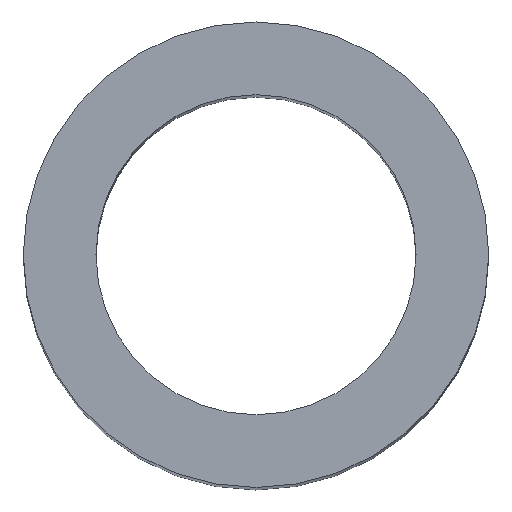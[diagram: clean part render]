
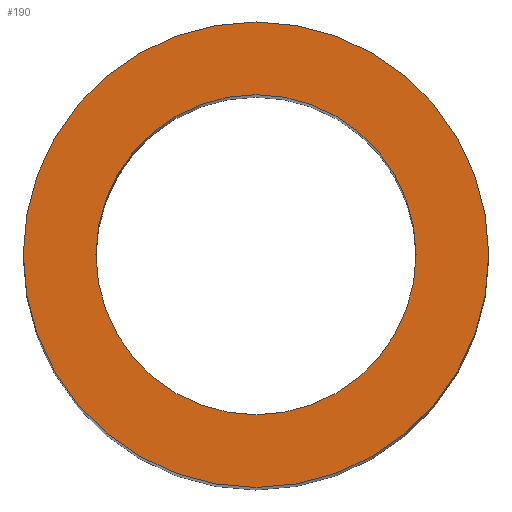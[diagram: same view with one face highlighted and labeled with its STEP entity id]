
A CAD part, top view. The second image highlights one B-rep face of the part: STEP entity #190.
In plain terms, the highlighted planar face has unit normal (0, 0, 1).
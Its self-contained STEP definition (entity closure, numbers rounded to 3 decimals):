
#24 = VERTEX_POINT('',#25);
#25 = CARTESIAN_POINT('',(25.1,-91.8,191.));
#32 = CYLINDRICAL_SURFACE('',#33,1.6);
#33 = AXIS2_PLACEMENT_3D('',#34,#35,#36);
#34 = CARTESIAN_POINT('',(23.5,-91.8,181.));
#35 = DIRECTION('',(-0.,-0.,-1.));
#36 = DIRECTION('',(1.,0.,0.));
#51 = EDGE_CURVE('',#24,#24,#52,.T.);
#52 = SURFACE_CURVE('',#53,(#58,#65),.PCURVE_S1.);
#53 = CIRCLE('',#54,1.6);
#54 = AXIS2_PLACEMENT_3D('',#55,#56,#57);
#55 = CARTESIAN_POINT('',(23.5,-91.8,191.));
#56 = DIRECTION('',(0.,0.,1.));
#57 = DIRECTION('',(1.,0.,0.));
#58 = PCURVE('',#32,#59);
#59 = DEFINITIONAL_REPRESENTATION('',(#60),#64);
#60 = LINE('',#61,#62);
#61 = CARTESIAN_POINT('',(-0.,-10.));
#62 = VECTOR('',#63,1.);
#63 = DIRECTION('',(-1.,0.));
#64 = ( GEOMETRIC_REPRESENTATION_CONTEXT(2) 
PARAMETRIC_REPRESENTATION_CONTEXT() REPRESENTATION_CONTEXT('2D SPACE',''
  ) );
#65 = PCURVE('',#66,#71);
#66 = PLANE('',#67);
#67 = AXIS2_PLACEMENT_3D('',#68,#69,#70);
#68 = CARTESIAN_POINT('',(23.5,-91.8,191.));
#69 = DIRECTION('',(0.,0.,1.));
#70 = DIRECTION('',(1.,0.,-0.));
#71 = DEFINITIONAL_REPRESENTATION('',(#72),#76);
#72 = CIRCLE('',#73,1.6);
#73 = AXIS2_PLACEMENT_2D('',#74,#75);
#74 = CARTESIAN_POINT('',(0.,0.));
#75 = DIRECTION('',(1.,0.));
#76 = ( GEOMETRIC_REPRESENTATION_CONTEXT(2) 
PARAMETRIC_REPRESENTATION_CONTEXT() REPRESENTATION_CONTEXT('2D SPACE',''
  ) );
#112 = VERTEX_POINT('',#113);
#113 = CARTESIAN_POINT('',(24.6,-91.8,191.));
#120 = CYLINDRICAL_SURFACE('',#121,1.1);
#121 = AXIS2_PLACEMENT_3D('',#122,#123,#124);
#122 = CARTESIAN_POINT('',(23.5,-91.8,181.));
#123 = DIRECTION('',(-0.,-0.,-1.));
#124 = DIRECTION('',(1.,0.,0.));
#139 = EDGE_CURVE('',#112,#112,#140,.T.);
#140 = SURFACE_CURVE('',#141,(#146,#153),.PCURVE_S1.);
#141 = CIRCLE('',#142,1.1);
#142 = AXIS2_PLACEMENT_3D('',#143,#144,#145);
#143 = CARTESIAN_POINT('',(23.5,-91.8,191.));
#144 = DIRECTION('',(0.,0.,1.));
#145 = DIRECTION('',(1.,0.,0.));
#146 = PCURVE('',#120,#147);
#147 = DEFINITIONAL_REPRESENTATION('',(#148),#152);
#148 = LINE('',#149,#150);
#149 = CARTESIAN_POINT('',(-0.,-10.));
#150 = VECTOR('',#151,1.);
#151 = DIRECTION('',(-1.,0.));
#152 = ( GEOMETRIC_REPRESENTATION_CONTEXT(2) 
PARAMETRIC_REPRESENTATION_CONTEXT() REPRESENTATION_CONTEXT('2D SPACE',''
  ) );
#153 = PCURVE('',#66,#154);
#154 = DEFINITIONAL_REPRESENTATION('',(#155),#159);
#155 = CIRCLE('',#156,1.1);
#156 = AXIS2_PLACEMENT_2D('',#157,#158);
#157 = CARTESIAN_POINT('',(0.,0.));
#158 = DIRECTION('',(1.,0.));
#159 = ( GEOMETRIC_REPRESENTATION_CONTEXT(2) 
PARAMETRIC_REPRESENTATION_CONTEXT() REPRESENTATION_CONTEXT('2D SPACE',''
  ) );
#190 = ADVANCED_FACE('',(#191,#194),#66,.T.);
#191 = FACE_BOUND('',#192,.T.);
#192 = EDGE_LOOP('',(#193));
#193 = ORIENTED_EDGE('',*,*,#51,.T.);
#194 = FACE_BOUND('',#195,.T.);
#195 = EDGE_LOOP('',(#196));
#196 = ORIENTED_EDGE('',*,*,#139,.F.);
